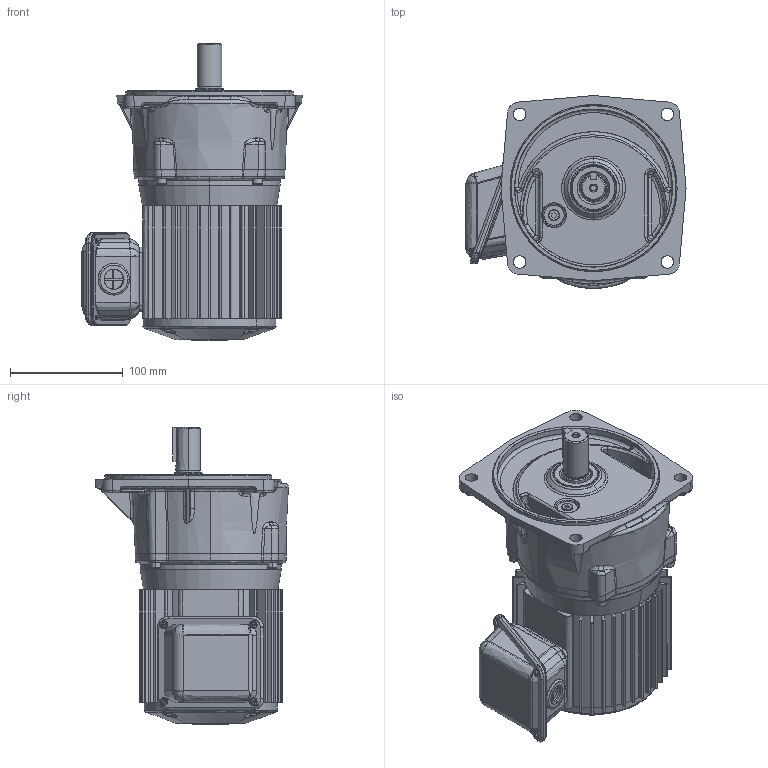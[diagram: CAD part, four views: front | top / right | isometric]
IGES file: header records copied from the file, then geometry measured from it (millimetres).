
Start section: SolidWorks IGES file using analytic representation for surfaces
Global section: file name: \\100.100.100.8\1_共有作業フォルダ\1-5_３Ｄデータ\solidworks\personal-folder\H.Nagayama\SGP1外形\P1(3D)\igs\TMF2-01-(60~200).IGS; native system: SolidWorks 2018; preprocessor: SolidWorks 2018; author: sigma-giken; date: 200508.141102; units: millimetre
Bounding box: 195.03 x 170.86 x 263.5 mm (x, y, z)
Surface area: 329273.7 mm2 (no closed solid volume)
Topology: 0 solids, 0 shells, 1370 faces, 16764 edges, 16744 vertices
Faces by surface type: bspline 756, revolution 614
